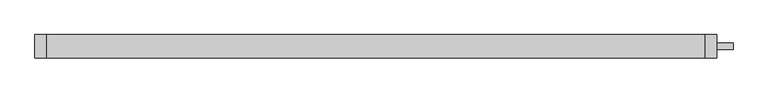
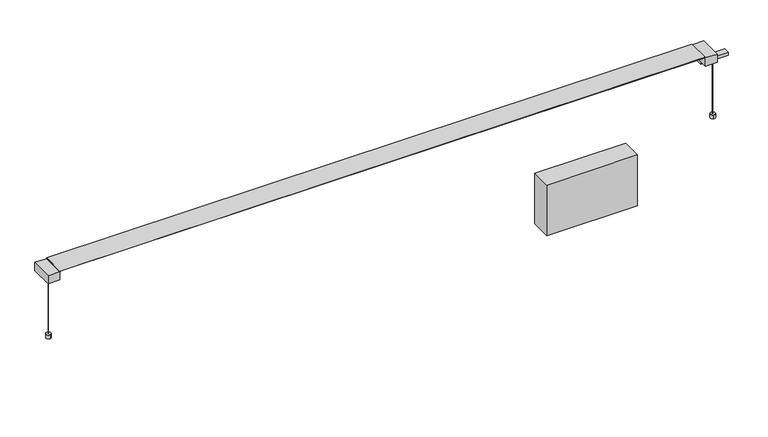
"""IFC4 building model written with IfcOpenShell, lengths in millimetres: light fixture geometry, Fabbian.Pivot F39 (F39 A01A 01,F39 A01A 21,F39 A01A 76,F39 A02A 01,F39 A02A 21,F39 A02A 76) : F39 A01A 01."""

from ifc_helpers import new_model, si_unit, point, frame, frame_2d, origin, origin_with_axes, place, context, project, spatial, polyline, circle_curve, trimmed, segment, composite_curve, outline, extrude, source, transform, mapped, element, save


def light_fixture_cd124d69(model_context):
    return source(origin(), model_context, "Body", "SweptSolid", [
        extrude(outline(composite_curve([segment(trimmed(circle_curve(frame_2d((815.8132834, 0.0)), 0.4949808), [point((816.3082642, 0.0))], [point((815.3183026, 0.0))], False, "CARTESIAN"), True, "CONTINUOUS"), segment(trimmed(circle_curve(frame_2d((815.8132834, 0.0)), 0.4949808), [point((815.3183026, 0.0))], [point((816.3082642, 0.0))], False, "CARTESIAN"), True, "CONTINUOUS")], self_intersect=False)), origin_with_axes(), (0.0, 0.0, 1.0), 151.6242394),
        extrude(outline(polyline([(619.1350388, 24.9666442), (619.1350388, -25.0334567), (399.1348055, -25.0334567), (399.1348055, 24.9666442), (619.1350388, 24.9666442)])), frame((0.0, 0.0, -142.875), z_axis=(0.0, 0.0, 1.0), x_axis=(1.0, 0.0, 0.0)), (0.0, 0.0, 1.0), 130.175),
        extrude(outline(composite_curve([segment(trimmed(circle_curve(frame_2d((-794.2559882, 0.0)), 0.4949808), [point((-794.750969, 0.0))], [point((-793.7610074, 0.0))], False, "CARTESIAN"), True, "CONTINUOUS"), segment(trimmed(circle_curve(frame_2d((-794.2559882, 0.0)), 0.4949808), [point((-793.7610074, 0.0))], [point((-794.750969, 0.0))], False, "CARTESIAN"), True, "CONTINUOUS")], self_intersect=False)), origin_with_axes(), (0.0, 0.0, 1.0), 159.6242394),
        extrude(outline(polyline([(-0.4107254, 159.893756), (-26.3879175, 181.0787506), (25.5497693, 181.0787506), (0.4107259, 159.893756), (0.4107259, 160.681594), (-0.4107254, 160.681594), (-0.4107254, 159.893756)])), frame((-782.3132834, 0.0, 0.0), z_axis=(1.0, 0.0, 0.0), x_axis=(0.0, 1.0, 0.0)), (0.0, 0.0, 1.0), 1564.6265668),
        extrude(outline(polyline([(-782.3132834, 27.7285043), (-782.3132834, -27.7953166), (-810.5140956, -27.7953166), (-810.5140956, 27.7285043), (-782.3132834, 27.7285043)])), frame((0.0, 0.0, 159.6242394), z_axis=(0.0, 0.0, 1.0), x_axis=(1.0, 0.0, 0.0)), (0.0, 0.0, 1.0), 20.8761838),
        extrude(outline(polyline([(782.3132834, 27.7285042), (810.5140956, 27.7285042), (810.5140956, -27.7953167), (782.3132834, -27.7953167), (782.3132834, 27.7285042)])), frame((0.0, 0.0, 159.6242394), z_axis=(0.0, 0.0, 1.0), x_axis=(1.0, 0.0, 0.0)), (0.0, 0.0, 1.0), 20.8761838),
        extrude(outline(polyline([(0.0, -0.8214513), (0.0, 0.0), (1564.6265668, 0.0), (1564.6265668, -0.8214513), (0.0, -0.8214513)])), frame((-782.3132834, 0.4107259, 159.893756), z_axis=(-5.7155291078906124e-11, 0.0, 1.0), x_axis=(1.0, 0.0, 5.7155291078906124e-11)), (0.0, 0.0, 1.0), 0.787838),
        extrude(outline(polyline([(781.7488887, -27.7780006), (-782.3132834, -27.7780006), (-782.3132834, 27.7779986), (781.7488887, 27.7779986), (781.7488887, -27.7780006)])), frame((0.0, 0.0, 181.0787506), z_axis=(0.0, 0.0, 1.0), x_axis=(1.0, 0.0, 0.0)), (0.0, 0.0, 1.0), 1.1514277),
        extrude(outline(composite_curve([segment(trimmed(circle_curve(frame_2d((815.8133121, -0.4556113)), 5.8155806), [point((816.6410047, 5.3007681))], [point((814.9856195, -6.2119906))], False, "CARTESIAN"), True, "CONTINUOUS"), segment(trimmed(circle_curve(frame_2d((815.8133121, -0.4556113)), 5.8155806), [point((814.9856195, -6.2119906))], [point((816.6410047, 5.3007681))], False, "CARTESIAN"), True, "CONTINUOUS")], self_intersect=False)), origin_with_axes(), (0.0, 0.0, 1.0), 9.6582083),
        extrude(outline(composite_curve([segment(trimmed(circle_curve(frame_2d((-794.2560169, -0.4556113)), 5.8155806), [point((-795.0837096, 5.3007681))], [point((-793.4283243, -6.2119906))], False, "CARTESIAN"), True, "CONTINUOUS"), segment(trimmed(circle_curve(frame_2d((-794.2560169, -0.4556113)), 5.8155806), [point((-793.4283243, -6.2119906))], [point((-795.0837096, 5.3007681))], False, "CARTESIAN"), True, "CONTINUOUS")], self_intersect=False)), origin_with_axes(), (0.0, 0.0, 1.0), 9.6582083),
        extrude(outline(polyline([(849.3132834, -7.5334062), (782.3132834, -7.5334062), (782.3132834, 7.4665938), (849.3132834, 7.4665938), (849.3132834, -7.5334062)])), frame((0.0, 0.0, 151.6242394), z_axis=(0.0, 0.0, 1.0), x_axis=(1.0, 0.0, 0.0)), (0.0, 0.0, 1.0), 8.0),
    ])


if __name__ == "__main__":
    model = new_model("IFC4")
    model_context = context("Model", 3, world=origin())
    ifc_project = project(units=[si_unit("LENGTHUNIT", "METRE", prefix="MILLI")], contexts=[model_context])
    site = spatial("IfcSite", under=ifc_project)
    building = spatial("IfcBuilding", under=site)
    placement = place(None, origin())
    light_fixture_shape = light_fixture_cd124d69(model_context)
    element("IfcLightFixture", 1, ObjectType="Fabbian.Pivot F39 (F39 A01A 01,F39 A01A 21,F39 A01A 76,F39 A02A 01,F39 A02A 21,F39 A02A 76) : F39 A01A 01", at=placement, inside=building, context=model_context, shape_type="MappedRepresentation", body=[
        mapped(light_fixture_shape, transform((0.0, 0.0, 0.0), x_axis=(1.0, 0.0, 0.0), y_axis=(0.0, 1.0, 0.0), z_axis=(0.0, 0.0, 1.0))),
    ])
    save(model, "model.ifc")
